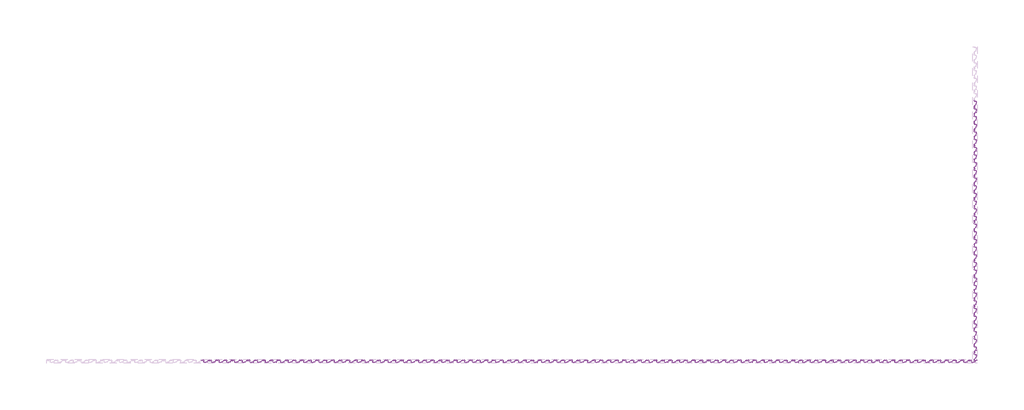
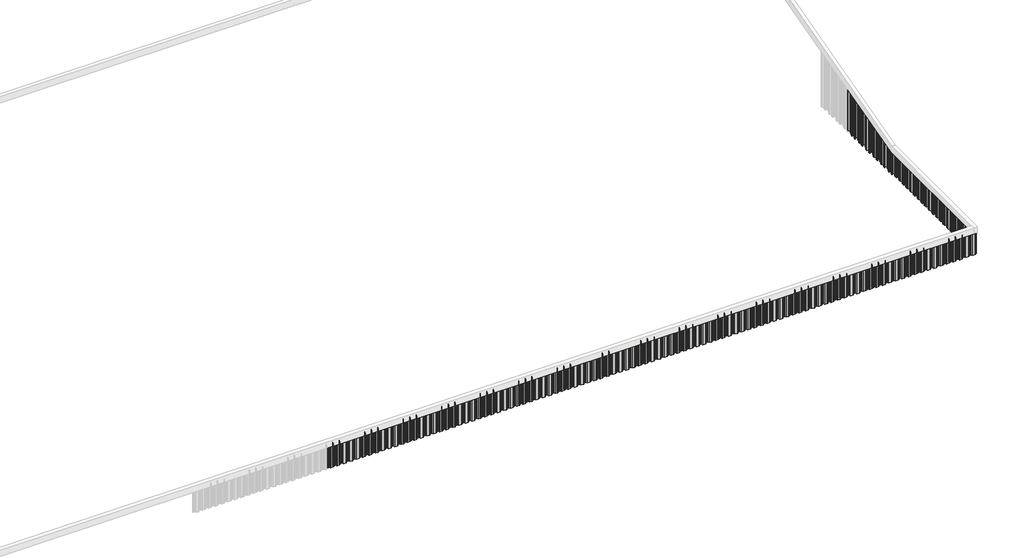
# One storey, part 3 of 6: 135 proxies.
"""IFC4 building model written with IfcOpenShell, lengths in millimetres."""

from ifc_helpers import new_model, si_unit, origin, place, context, project, spatial, transform, mapped, element, save
from components import generic_models_7553901d, generic_models_eddb28b0, generic_models_b851e550, generic_models_769bab11, generic_models_6a52f8d3, generic_models_cdec1266, generic_models_580ca2bd

model = new_model("IFC4")

# Units and contexts
model_context = context("Model", 3, world=origin())
ifc_project = project(units=[si_unit("LENGTHUNIT", "METRE", prefix="MILLI")], contexts=[model_context])

# Site, building, storey
site = spatial("IfcSite", under=ifc_project)
building = spatial("IfcBuilding", under=site)
storey = spatial("IfcBuildingStorey", under=building, Name="矢板", Elevation=0.0)

# Proxies
placement = place(None, origin())
generic_models_shape = generic_models_7553901d(model_context)
element("IfcBuildingElementProxy", 1, Name="鋼矢板10H型 : 鋼矢板10H型", ObjectType="鋼矢板10H型 : 鋼矢板10H型", at=placement, inside=storey, context=model_context, shape_type="MappedRepresentation", body=[
    mapped(generic_models_shape, transform((148500.0, -33049.0, 5850.0), x_axis=(0.0, -1.0, 0.0), y_axis=(1.0, 0.0, 0.0), z_axis=(0.0, 0.0, 1.0))),
])
element("IfcBuildingElementProxy", 2, Name="鋼矢板10H型 : 鋼矢板10H型", ObjectType="鋼矢板10H型 : 鋼矢板10H型", at=placement, inside=storey, context=model_context, shape_type="MappedRepresentation", body=[
    mapped(generic_models_shape, transform((148500.0, -33949.0, 5850.0), x_axis=(0.0, -1.0, 0.0), y_axis=(1.0, 0.0, 0.0), z_axis=(0.0, 0.0, 1.0))),
])
element("IfcBuildingElementProxy", 3, Name="鋼矢板10H型 : 鋼矢板10H型", ObjectType="鋼矢板10H型 : 鋼矢板10H型", at=placement, inside=storey, context=model_context, shape_type="MappedRepresentation", body=[
    mapped(generic_models_shape, transform((148500.0, -34849.0, 5850.0), x_axis=(0.0, -1.0, 0.0), y_axis=(1.0, 0.0, 0.0), z_axis=(0.0, 0.0, 1.0))),
])
element("IfcBuildingElementProxy", 4, Name="鋼矢板10H型 : 鋼矢板10H型", ObjectType="鋼矢板10H型 : 鋼矢板10H型", at=placement, inside=storey, context=model_context, shape_type="MappedRepresentation", body=[
    mapped(generic_models_shape, transform((148500.0, -35749.0, 5850.0), x_axis=(0.0, -1.0, 0.0), y_axis=(1.0, 0.0, 0.0), z_axis=(0.0, 0.0, 1.0))),
])
element("IfcBuildingElementProxy", 5, Name="鋼矢板10H型 : 鋼矢板10H型", ObjectType="鋼矢板10H型 : 鋼矢板10H型", at=placement, inside=storey, context=model_context, shape_type="MappedRepresentation", body=[
    mapped(generic_models_shape, transform((148500.0, -36649.0, 5850.0), x_axis=(0.0, -1.0, 0.0), y_axis=(1.0, 0.0, 0.0), z_axis=(0.0, 0.0, 1.0))),
])
element("IfcBuildingElementProxy", 6, Name="鋼矢板10H型 : 鋼矢板10H型", ObjectType="鋼矢板10H型 : 鋼矢板10H型", at=placement, inside=storey, context=model_context, shape_type="MappedRepresentation", body=[
    mapped(generic_models_shape, transform((148500.0, -37549.0, 5850.0), x_axis=(0.0, -1.0, 0.0), y_axis=(1.0, 0.0, 0.0), z_axis=(0.0, 0.0, 1.0))),
])
element("IfcBuildingElementProxy", 7, Name="鋼矢板10H型 : 鋼矢板10H型", ObjectType="鋼矢板10H型 : 鋼矢板10H型", at=placement, inside=storey, context=model_context, shape_type="MappedRepresentation", body=[
    mapped(generic_models_shape, transform((148500.0, -38449.0, 5850.0), x_axis=(0.0, -1.0, 0.0), y_axis=(1.0, 0.0, 0.0), z_axis=(0.0, 0.0, 1.0))),
])
element("IfcBuildingElementProxy", 8, Name="鋼矢板10H型 : 鋼矢板10H型", ObjectType="鋼矢板10H型 : 鋼矢板10H型", at=placement, inside=storey, context=model_context, shape_type="MappedRepresentation", body=[
    mapped(generic_models_shape, transform((148500.0, -39349.0, 5850.0), x_axis=(0.0, -1.0, 0.0), y_axis=(1.0, 0.0, 0.0), z_axis=(0.0, 0.0, 1.0))),
])
element("IfcBuildingElementProxy", 9, Name="鋼矢板10H型 : 鋼矢板10H型", ObjectType="鋼矢板10H型 : 鋼矢板10H型", at=placement, inside=storey, context=model_context, shape_type="MappedRepresentation", body=[
    mapped(generic_models_shape, transform((148500.0, -40249.0, 5850.0), x_axis=(0.0, -1.0, 0.0), y_axis=(1.0, 0.0, 0.0), z_axis=(0.0, 0.0, 1.0))),
])
element("IfcBuildingElementProxy", 10, Name="鋼矢板10H型 : 鋼矢板10H型", ObjectType="鋼矢板10H型 : 鋼矢板10H型", at=placement, inside=storey, context=model_context, shape_type="MappedRepresentation", body=[
    mapped(generic_models_shape, transform((148500.0, -41149.0, 5850.0), x_axis=(0.0, -1.0, 0.0), y_axis=(1.0, 0.0, 0.0), z_axis=(0.0, 0.0, 1.0))),
])
element("IfcBuildingElementProxy", 11, Name="鋼矢板10H型 : 鋼矢板10H型", ObjectType="鋼矢板10H型 : 鋼矢板10H型", at=placement, inside=storey, context=model_context, shape_type="MappedRepresentation", body=[
    mapped(generic_models_shape, transform((148500.0, -42049.0, 5850.0), x_axis=(0.0, -1.0, 0.0), y_axis=(1.0, 0.0, 0.0), z_axis=(0.0, 0.0, 1.0))),
])
element("IfcBuildingElementProxy", 12, Name="鋼矢板10H型 : 鋼矢板10H型", ObjectType="鋼矢板10H型 : 鋼矢板10H型", at=placement, inside=storey, context=model_context, shape_type="MappedRepresentation", body=[
    mapped(generic_models_shape, transform((148500.0, -42949.0, 5850.0), x_axis=(0.0, -1.0, 0.0), y_axis=(1.0, 0.0, 0.0), z_axis=(0.0, 0.0, 1.0))),
])
element("IfcBuildingElementProxy", 13, Name="鋼矢板10H型 : 鋼矢板10H型", ObjectType="鋼矢板10H型 : 鋼矢板10H型", at=placement, inside=storey, context=model_context, shape_type="MappedRepresentation", body=[
    mapped(generic_models_shape, transform((148500.0, -43849.0, 5850.0), x_axis=(0.0, -1.0, 0.0), y_axis=(1.0, 0.0, 0.0), z_axis=(0.0, 0.0, 1.0))),
])
element("IfcBuildingElementProxy", 14, Name="鋼矢板10H型 : 鋼矢板10H型", ObjectType="鋼矢板10H型 : 鋼矢板10H型", at=placement, inside=storey, context=model_context, shape_type="MappedRepresentation", body=[
    mapped(generic_models_shape, transform((148500.0, -44749.0, 5850.0), x_axis=(0.0, -1.0, 0.0), y_axis=(1.0, 0.0, 0.0), z_axis=(0.0, 0.0, 1.0))),
])
element("IfcBuildingElementProxy", 15, Name="鋼矢板10H型 : 鋼矢板10H型", ObjectType="鋼矢板10H型 : 鋼矢板10H型", at=placement, inside=storey, context=model_context, shape_type="MappedRepresentation", body=[
    mapped(generic_models_shape, transform((148500.0, -45649.0, 5850.0), x_axis=(0.0, -1.0, 0.0), y_axis=(1.0, 0.0, 0.0), z_axis=(0.0, 0.0, 1.0))),
])
element("IfcBuildingElementProxy", 16, Name="鋼矢板10H型 : 鋼矢板10H型", ObjectType="鋼矢板10H型 : 鋼矢板10H型", at=placement, inside=storey, context=model_context, shape_type="MappedRepresentation", body=[
    mapped(generic_models_shape, transform((148500.0, -46549.0, 5850.0), x_axis=(0.0, -1.0, 0.0), y_axis=(1.0, 0.0, 0.0), z_axis=(0.0, 0.0, 1.0))),
])
element("IfcBuildingElementProxy", 17, Name="鋼矢板10H型 : 鋼矢板10H型", ObjectType="鋼矢板10H型 : 鋼矢板10H型", at=placement, inside=storey, context=model_context, shape_type="MappedRepresentation", body=[
    mapped(generic_models_shape, transform((148500.0, -47449.0, 5850.0), x_axis=(0.0, -1.0, 0.0), y_axis=(1.0, 0.0, 0.0), z_axis=(0.0, 0.0, 1.0))),
])
element("IfcBuildingElementProxy", 18, Name="鋼矢板10H型 : 鋼矢板10H型", ObjectType="鋼矢板10H型 : 鋼矢板10H型", at=placement, inside=storey, context=model_context, shape_type="MappedRepresentation", body=[
    mapped(generic_models_shape, transform((148500.0, -48349.0, 5850.0), x_axis=(0.0, -1.0, 0.0), y_axis=(1.0, 0.0, 0.0), z_axis=(0.0, 0.0, 1.0))),
])
element("IfcBuildingElementProxy", 19, Name="鋼矢板10H型 : 鋼矢板10H型", ObjectType="鋼矢板10H型 : 鋼矢板10H型", at=placement, inside=storey, context=model_context, shape_type="MappedRepresentation", body=[
    mapped(generic_models_shape, transform((148500.0, -49249.0, 5850.0), x_axis=(0.0, -1.0, 0.0), y_axis=(1.0, 0.0, 0.0), z_axis=(0.0, 0.0, 1.0))),
])
element("IfcBuildingElementProxy", 20, Name="鋼矢板10H型 : 鋼矢板10H型", ObjectType="鋼矢板10H型 : 鋼矢板10H型", at=placement, inside=storey, context=model_context, shape_type="MappedRepresentation", body=[
    mapped(generic_models_shape, transform((148500.0, -50149.0, 5850.0), x_axis=(0.0, -1.0, 0.0), y_axis=(1.0, 0.0, 0.0), z_axis=(0.0, 0.0, 1.0))),
])
element("IfcBuildingElementProxy", 21, Name="鋼矢板10H型 : 鋼矢板10H型", ObjectType="鋼矢板10H型 : 鋼矢板10H型", at=placement, inside=storey, context=model_context, shape_type="MappedRepresentation", body=[
    mapped(generic_models_shape, transform((148500.0, -51049.0, 5850.0), x_axis=(0.0, -1.0, 0.0), y_axis=(1.0, 0.0, 0.0), z_axis=(0.0, 0.0, 1.0))),
])
element("IfcBuildingElementProxy", 22, Name="鋼矢板10H型 : 鋼矢板10H型", ObjectType="鋼矢板10H型 : 鋼矢板10H型", at=placement, inside=storey, context=model_context, shape_type="MappedRepresentation", body=[
    mapped(generic_models_shape, transform((148500.0, -51949.0, 5850.0), x_axis=(0.0, -1.0, 0.0), y_axis=(1.0, 0.0, 0.0), z_axis=(0.0, 0.0, 1.0))),
])
element("IfcBuildingElementProxy", 23, Name="鋼矢板10H型 : 鋼矢板10H型", ObjectType="鋼矢板10H型 : 鋼矢板10H型", at=placement, inside=storey, context=model_context, shape_type="MappedRepresentation", body=[
    mapped(generic_models_shape, transform((148302.5, -52500.0, 5850.0), x_axis=(-1.0, 0.0, 0.0), y_axis=(0.0, -1.0, 0.0), z_axis=(0.0, 0.0, 1.0))),
])
element("IfcBuildingElementProxy", 24, Name="鋼矢板10H型 : 鋼矢板10H型", ObjectType="鋼矢板10H型 : 鋼矢板10H型", at=placement, inside=storey, context=model_context, shape_type="MappedRepresentation", body=[
    mapped(generic_models_shape, transform((147402.5, -52500.0, 5850.0), x_axis=(-1.0, 0.0, 0.0), y_axis=(0.0, -1.0, 0.0), z_axis=(0.0, 0.0, 1.0))),
])
element("IfcBuildingElementProxy", 25, Name="鋼矢板10H型 : 鋼矢板10H型", ObjectType="鋼矢板10H型 : 鋼矢板10H型", at=placement, inside=storey, context=model_context, shape_type="MappedRepresentation", body=[
    mapped(generic_models_shape, transform((146502.5, -52500.0, 5850.0), x_axis=(-1.0, 0.0, 0.0), y_axis=(0.0, -1.0, 0.0), z_axis=(0.0, 0.0, 1.0))),
])
element("IfcBuildingElementProxy", 26, Name="鋼矢板10H型 : 鋼矢板10H型", ObjectType="鋼矢板10H型 : 鋼矢板10H型", at=placement, inside=storey, context=model_context, shape_type="MappedRepresentation", body=[
    mapped(generic_models_shape, transform((145602.5, -52500.0, 5850.0), x_axis=(-1.0, 0.0, 0.0), y_axis=(0.0, -1.0, 0.0), z_axis=(0.0, 0.0, 1.0))),
])
element("IfcBuildingElementProxy", 27, Name="鋼矢板10H型 : 鋼矢板10H型", ObjectType="鋼矢板10H型 : 鋼矢板10H型", at=placement, inside=storey, context=model_context, shape_type="MappedRepresentation", body=[
    mapped(generic_models_shape, transform((144702.5, -52500.0, 5850.0), x_axis=(-1.0, 0.0, 0.0), y_axis=(0.0, -1.0, 0.0), z_axis=(0.0, 0.0, 1.0))),
])
element("IfcBuildingElementProxy", 28, Name="鋼矢板10H型 : 鋼矢板10H型", ObjectType="鋼矢板10H型 : 鋼矢板10H型", at=placement, inside=storey, context=model_context, shape_type="MappedRepresentation", body=[
    mapped(generic_models_shape, transform((143802.5, -52500.0, 5850.0), x_axis=(-1.0, 0.0, 0.0), y_axis=(0.0, -1.0, 0.0), z_axis=(0.0, 0.0, 1.0))),
])
element("IfcBuildingElementProxy", 29, Name="鋼矢板10H型 : 鋼矢板10H型", ObjectType="鋼矢板10H型 : 鋼矢板10H型", at=placement, inside=storey, context=model_context, shape_type="MappedRepresentation", body=[
    mapped(generic_models_shape, transform((142902.5, -52500.0, 5850.0), x_axis=(-1.0, 0.0, 0.0), y_axis=(0.0, -1.0, 0.0), z_axis=(0.0, 0.0, 1.0))),
])
element("IfcBuildingElementProxy", 30, Name="鋼矢板10H型 : 鋼矢板10H型", ObjectType="鋼矢板10H型 : 鋼矢板10H型", at=placement, inside=storey, context=model_context, shape_type="MappedRepresentation", body=[
    mapped(generic_models_shape, transform((142002.5, -52500.0, 5850.0), x_axis=(-1.0, 0.0, 0.0), y_axis=(0.0, -1.0, 0.0), z_axis=(0.0, 0.0, 1.0))),
])
element("IfcBuildingElementProxy", 31, Name="鋼矢板10H型 : 鋼矢板10H型", ObjectType="鋼矢板10H型 : 鋼矢板10H型", at=placement, inside=storey, context=model_context, shape_type="MappedRepresentation", body=[
    mapped(generic_models_shape, transform((141102.5, -52500.0, 5850.0), x_axis=(-1.0, 0.0, 0.0), y_axis=(0.0, -1.0, 0.0), z_axis=(0.0, 0.0, 1.0))),
])
element("IfcBuildingElementProxy", 32, Name="鋼矢板10H型 : 鋼矢板10H型", ObjectType="鋼矢板10H型 : 鋼矢板10H型", at=placement, inside=storey, context=model_context, shape_type="MappedRepresentation", body=[
    mapped(generic_models_shape, transform((140202.5, -52500.0, 5850.0), x_axis=(-1.0, 0.0, 0.0), y_axis=(0.0, -1.0, 0.0), z_axis=(0.0, 0.0, 1.0))),
])
element("IfcBuildingElementProxy", 33, Name="鋼矢板10H型 : 鋼矢板10H型", ObjectType="鋼矢板10H型 : 鋼矢板10H型", at=placement, inside=storey, context=model_context, shape_type="MappedRepresentation", body=[
    mapped(generic_models_shape, transform((139302.5, -52500.0, 5850.0), x_axis=(-1.0, 0.0, 0.0), y_axis=(0.0, -1.0, 0.0), z_axis=(0.0, 0.0, 1.0))),
])
element("IfcBuildingElementProxy", 34, Name="鋼矢板10H型 : 鋼矢板10H型", ObjectType="鋼矢板10H型 : 鋼矢板10H型", at=placement, inside=storey, context=model_context, shape_type="MappedRepresentation", body=[
    mapped(generic_models_shape, transform((138402.5, -52500.0, 5850.0), x_axis=(-1.0, 0.0, 0.0), y_axis=(0.0, -1.0, 0.0), z_axis=(0.0, 0.0, 1.0))),
])
element("IfcBuildingElementProxy", 35, Name="鋼矢板10H型 : 鋼矢板10H型", ObjectType="鋼矢板10H型 : 鋼矢板10H型", at=placement, inside=storey, context=model_context, shape_type="MappedRepresentation", body=[
    mapped(generic_models_shape, transform((137502.5, -52500.0, 5850.0), x_axis=(-1.0, 0.0, 0.0), y_axis=(0.0, -1.0, 0.0), z_axis=(0.0, 0.0, 1.0))),
])
element("IfcBuildingElementProxy", 36, Name="鋼矢板10H型 : 鋼矢板10H型", ObjectType="鋼矢板10H型 : 鋼矢板10H型", at=placement, inside=storey, context=model_context, shape_type="MappedRepresentation", body=[
    mapped(generic_models_shape, transform((136602.5, -52500.0, 5850.0), x_axis=(-1.0, 0.0, 0.0), y_axis=(0.0, -1.0, 0.0), z_axis=(0.0, 0.0, 1.0))),
])
element("IfcBuildingElementProxy", 37, Name="鋼矢板10H型 : 鋼矢板10H型", ObjectType="鋼矢板10H型 : 鋼矢板10H型", at=placement, inside=storey, context=model_context, shape_type="MappedRepresentation", body=[
    mapped(generic_models_shape, transform((135702.5, -52500.0, 5850.0), x_axis=(-1.0, 0.0, 0.0), y_axis=(0.0, -1.0, 0.0), z_axis=(0.0, 0.0, 1.0))),
])
element("IfcBuildingElementProxy", 38, Name="鋼矢板10H型 : 鋼矢板10H型", ObjectType="鋼矢板10H型 : 鋼矢板10H型", at=placement, inside=storey, context=model_context, shape_type="MappedRepresentation", body=[
    mapped(generic_models_shape, transform((134802.5, -52500.0, 5850.0), x_axis=(-1.0, 0.0, 0.0), y_axis=(0.0, -1.0, 0.0), z_axis=(0.0, 0.0, 1.0))),
])
element("IfcBuildingElementProxy", 39, Name="鋼矢板10H型 : 鋼矢板10H型", ObjectType="鋼矢板10H型 : 鋼矢板10H型", at=placement, inside=storey, context=model_context, shape_type="MappedRepresentation", body=[
    mapped(generic_models_shape, transform((133902.5, -52500.0, 5850.0), x_axis=(-1.0, 0.0, 0.0), y_axis=(0.0, -1.0, 0.0), z_axis=(0.0, 0.0, 1.0))),
])
element("IfcBuildingElementProxy", 40, Name="鋼矢板10H型 : 鋼矢板10H型", ObjectType="鋼矢板10H型 : 鋼矢板10H型", at=placement, inside=storey, context=model_context, shape_type="MappedRepresentation", body=[
    mapped(generic_models_shape, transform((133002.5, -52500.0, 5850.0), x_axis=(-1.0, 0.0, 0.0), y_axis=(0.0, -1.0, 0.0), z_axis=(0.0, 0.0, 1.0))),
])
element("IfcBuildingElementProxy", 41, Name="鋼矢板10H型 : 鋼矢板10H型", ObjectType="鋼矢板10H型 : 鋼矢板10H型", at=placement, inside=storey, context=model_context, shape_type="MappedRepresentation", body=[
    mapped(generic_models_shape, transform((132102.5, -52500.0, 5850.0), x_axis=(-1.0, 0.0, 0.0), y_axis=(0.0, -1.0, 0.0), z_axis=(0.0, 0.0, 1.0))),
])
element("IfcBuildingElementProxy", 42, Name="鋼矢板10H型 : 鋼矢板10H型", ObjectType="鋼矢板10H型 : 鋼矢板10H型", at=placement, inside=storey, context=model_context, shape_type="MappedRepresentation", body=[
    mapped(generic_models_shape, transform((131202.5, -52500.0, 5850.0), x_axis=(-1.0, 0.0, 0.0), y_axis=(0.0, -1.0, 0.0), z_axis=(0.0, 0.0, 1.0))),
])
element("IfcBuildingElementProxy", 43, Name="鋼矢板10H型 : 鋼矢板10H型", ObjectType="鋼矢板10H型 : 鋼矢板10H型", at=placement, inside=storey, context=model_context, shape_type="MappedRepresentation", body=[
    mapped(generic_models_shape, transform((130302.5, -52500.0, 5850.0), x_axis=(-1.0, 0.0, 0.0), y_axis=(0.0, -1.0, 0.0), z_axis=(0.0, 0.0, 1.0))),
])
element("IfcBuildingElementProxy", 44, Name="鋼矢板10H型 : 鋼矢板10H型", ObjectType="鋼矢板10H型 : 鋼矢板10H型", at=placement, inside=storey, context=model_context, shape_type="MappedRepresentation", body=[
    mapped(generic_models_shape, transform((129402.5, -52500.0, 5850.0), x_axis=(-1.0, 0.0, 0.0), y_axis=(0.0, -1.0, 0.0), z_axis=(0.0, 0.0, 1.0))),
])
element("IfcBuildingElementProxy", 45, Name="鋼矢板10H型 : 鋼矢板10H型", ObjectType="鋼矢板10H型 : 鋼矢板10H型", at=placement, inside=storey, context=model_context, shape_type="MappedRepresentation", body=[
    mapped(generic_models_shape, transform((128502.5, -52500.0, 5850.0), x_axis=(-1.0, 0.0, 0.0), y_axis=(0.0, -1.0, 0.0), z_axis=(0.0, 0.0, 1.0))),
])
element("IfcBuildingElementProxy", 46, Name="鋼矢板10H型 : 鋼矢板10H型", ObjectType="鋼矢板10H型 : 鋼矢板10H型", at=placement, inside=storey, context=model_context, shape_type="MappedRepresentation", body=[
    mapped(generic_models_shape, transform((127602.5, -52500.0, 5850.0), x_axis=(-1.0, 0.0, 0.0), y_axis=(0.0, -1.0, 0.0), z_axis=(0.0, 0.0, 1.0))),
])
element("IfcBuildingElementProxy", 47, Name="鋼矢板10H型 : 鋼矢板10H型", ObjectType="鋼矢板10H型 : 鋼矢板10H型", at=placement, inside=storey, context=model_context, shape_type="MappedRepresentation", body=[
    mapped(generic_models_shape, transform((126702.5, -52500.0, 5850.0), x_axis=(-1.0, 0.0, 0.0), y_axis=(0.0, -1.0, 0.0), z_axis=(0.0, 0.0, 1.0))),
])
element("IfcBuildingElementProxy", 48, Name="鋼矢板10H型 : 鋼矢板10H型", ObjectType="鋼矢板10H型 : 鋼矢板10H型", at=placement, inside=storey, context=model_context, shape_type="MappedRepresentation", body=[
    mapped(generic_models_shape, transform((125802.5, -52500.0, 5850.0), x_axis=(-1.0, 0.0, 0.0), y_axis=(0.0, -1.0, 0.0), z_axis=(0.0, 0.0, 1.0))),
])
element("IfcBuildingElementProxy", 49, Name="鋼矢板10H型 : 鋼矢板10H型", ObjectType="鋼矢板10H型 : 鋼矢板10H型", at=placement, inside=storey, context=model_context, shape_type="MappedRepresentation", body=[
    mapped(generic_models_shape, transform((124902.5, -52500.0, 5850.0), x_axis=(-1.0, 0.0, 0.0), y_axis=(0.0, -1.0, 0.0), z_axis=(0.0, 0.0, 1.0))),
])
element("IfcBuildingElementProxy", 50, Name="鋼矢板10H型 : 鋼矢板10H型", ObjectType="鋼矢板10H型 : 鋼矢板10H型", at=placement, inside=storey, context=model_context, shape_type="MappedRepresentation", body=[
    mapped(generic_models_shape, transform((124002.5, -52500.0, 5850.0), x_axis=(-1.0, 0.0, 0.0), y_axis=(0.0, -1.0, 0.0), z_axis=(0.0, 0.0, 1.0))),
])
element("IfcBuildingElementProxy", 51, Name="鋼矢板10H型 : 鋼矢板10H型", ObjectType="鋼矢板10H型 : 鋼矢板10H型", at=placement, inside=storey, context=model_context, shape_type="MappedRepresentation", body=[
    mapped(generic_models_shape, transform((123102.5, -52500.0, 5850.0), x_axis=(-1.0, 0.0, 0.0), y_axis=(0.0, -1.0, 0.0), z_axis=(0.0, 0.0, 1.0))),
])
element("IfcBuildingElementProxy", 52, Name="鋼矢板10H型 : 鋼矢板10H型", ObjectType="鋼矢板10H型 : 鋼矢板10H型", at=placement, inside=storey, context=model_context, shape_type="MappedRepresentation", body=[
    mapped(generic_models_shape, transform((122202.5, -52500.0, 5850.0), x_axis=(-1.0, 0.0, 0.0), y_axis=(0.0, -1.0, 0.0), z_axis=(0.0, 0.0, 1.0))),
])
element("IfcBuildingElementProxy", 53, Name="鋼矢板10H型 : 鋼矢板10H型", ObjectType="鋼矢板10H型 : 鋼矢板10H型", at=placement, inside=storey, context=model_context, shape_type="MappedRepresentation", body=[
    mapped(generic_models_shape, transform((121302.5, -52500.0, 5850.0), x_axis=(-1.0, 0.0, 0.0), y_axis=(0.0, -1.0, 0.0), z_axis=(0.0, 0.0, 1.0))),
])
element("IfcBuildingElementProxy", 54, Name="鋼矢板10H型 : 鋼矢板10H型", ObjectType="鋼矢板10H型 : 鋼矢板10H型", at=placement, inside=storey, context=model_context, shape_type="MappedRepresentation", body=[
    mapped(generic_models_shape, transform((120402.5, -52500.0, 5850.0), x_axis=(-1.0, 0.0, 0.0), y_axis=(0.0, -1.0, 0.0), z_axis=(0.0, 0.0, 1.0))),
])
element("IfcBuildingElementProxy", 55, Name="鋼矢板10H型 : 鋼矢板10H型", ObjectType="鋼矢板10H型 : 鋼矢板10H型", at=placement, inside=storey, context=model_context, shape_type="MappedRepresentation", body=[
    mapped(generic_models_shape, transform((119502.5, -52500.0, 5850.0), x_axis=(-1.0, 0.0, 0.0), y_axis=(0.0, -1.0, 0.0), z_axis=(0.0, 0.0, 1.0))),
])
element("IfcBuildingElementProxy", 56, Name="鋼矢板10H型 : 鋼矢板10H型", ObjectType="鋼矢板10H型 : 鋼矢板10H型", at=placement, inside=storey, context=model_context, shape_type="MappedRepresentation", body=[
    mapped(generic_models_shape, transform((118602.5, -52500.0, 5850.0), x_axis=(-1.0, 0.0, 0.0), y_axis=(0.0, -1.0, 0.0), z_axis=(0.0, 0.0, 1.0))),
])
element("IfcBuildingElementProxy", 57, Name="鋼矢板10H型 : 鋼矢板10H型", ObjectType="鋼矢板10H型 : 鋼矢板10H型", at=placement, inside=storey, context=model_context, shape_type="MappedRepresentation", body=[
    mapped(generic_models_shape, transform((117702.5, -52500.0, 5850.0), x_axis=(-1.0, 0.0, 0.0), y_axis=(0.0, -1.0, 0.0), z_axis=(0.0, 0.0, 1.0))),
])
element("IfcBuildingElementProxy", 58, Name="鋼矢板10H型 : 鋼矢板10H型", ObjectType="鋼矢板10H型 : 鋼矢板10H型", at=placement, inside=storey, context=model_context, shape_type="MappedRepresentation", body=[
    mapped(generic_models_shape, transform((116802.5, -52500.0, 5850.0), x_axis=(-1.0, 0.0, 0.0), y_axis=(0.0, -1.0, 0.0), z_axis=(0.0, 0.0, 1.0))),
])
element("IfcBuildingElementProxy", 59, Name="鋼矢板10H型 : 鋼矢板10H型", ObjectType="鋼矢板10H型 : 鋼矢板10H型", at=placement, inside=storey, context=model_context, shape_type="MappedRepresentation", body=[
    mapped(generic_models_shape, transform((115902.5, -52500.0, 5850.0), x_axis=(-1.0, 0.0, 0.0), y_axis=(0.0, -1.0, 0.0), z_axis=(0.0, 0.0, 1.0))),
])
element("IfcBuildingElementProxy", 60, Name="鋼矢板10H型 : 鋼矢板10H型", ObjectType="鋼矢板10H型 : 鋼矢板10H型", at=placement, inside=storey, context=model_context, shape_type="MappedRepresentation", body=[
    mapped(generic_models_shape, transform((115002.5, -52500.0, 5850.0), x_axis=(-1.0, 0.0, 0.0), y_axis=(0.0, -1.0, 0.0), z_axis=(0.0, 0.0, 1.0))),
])
element("IfcBuildingElementProxy", 61, Name="鋼矢板10H型 : 鋼矢板10H型", ObjectType="鋼矢板10H型 : 鋼矢板10H型", at=placement, inside=storey, context=model_context, shape_type="MappedRepresentation", body=[
    mapped(generic_models_shape, transform((114102.5, -52500.0, 5850.0), x_axis=(-1.0, 0.0, 0.0), y_axis=(0.0, -1.0, 0.0), z_axis=(0.0, 0.0, 1.0))),
])
element("IfcBuildingElementProxy", 62, Name="鋼矢板10H型 : 鋼矢板10H型", ObjectType="鋼矢板10H型 : 鋼矢板10H型", at=placement, inside=storey, context=model_context, shape_type="MappedRepresentation", body=[
    mapped(generic_models_shape, transform((113202.5, -52500.0, 5850.0), x_axis=(-1.0, 0.0, 0.0), y_axis=(0.0, -1.0, 0.0), z_axis=(0.0, 0.0, 1.0))),
])
element("IfcBuildingElementProxy", 63, Name="鋼矢板10H型 : 鋼矢板10H型", ObjectType="鋼矢板10H型 : 鋼矢板10H型", at=placement, inside=storey, context=model_context, shape_type="MappedRepresentation", body=[
    mapped(generic_models_shape, transform((112302.5, -52500.0, 5850.0), x_axis=(-1.0, 0.0, 0.0), y_axis=(0.0, -1.0, 0.0), z_axis=(0.0, 0.0, 1.0))),
])
element("IfcBuildingElementProxy", 64, Name="鋼矢板10H型 : 鋼矢板10H型", ObjectType="鋼矢板10H型 : 鋼矢板10H型", at=placement, inside=storey, context=model_context, shape_type="MappedRepresentation", body=[
    mapped(generic_models_shape, transform((111402.5, -52500.0, 5850.0), x_axis=(-1.0, 0.0, 0.0), y_axis=(0.0, -1.0, 0.0), z_axis=(0.0, 0.0, 1.0))),
])
element("IfcBuildingElementProxy", 65, Name="鋼矢板10H型 : 鋼矢板10H型", ObjectType="鋼矢板10H型 : 鋼矢板10H型", at=placement, inside=storey, context=model_context, shape_type="MappedRepresentation", body=[
    mapped(generic_models_shape, transform((110502.5, -52500.0, 5850.0), x_axis=(-1.0, 0.0, 0.0), y_axis=(0.0, -1.0, 0.0), z_axis=(0.0, 0.0, 1.0))),
])
element("IfcBuildingElementProxy", 66, Name="鋼矢板10H型 : 鋼矢板10H型", ObjectType="鋼矢板10H型 : 鋼矢板10H型", at=placement, inside=storey, context=model_context, shape_type="MappedRepresentation", body=[
    mapped(generic_models_shape, transform((109602.5, -52500.0, 5850.0), x_axis=(-1.0, 0.0, 0.0), y_axis=(0.0, -1.0, 0.0), z_axis=(0.0, 0.0, 1.0))),
])
element("IfcBuildingElementProxy", 67, Name="鋼矢板10H型 : 鋼矢板10H型", ObjectType="鋼矢板10H型 : 鋼矢板10H型", at=placement, inside=storey, context=model_context, shape_type="MappedRepresentation", body=[
    mapped(generic_models_shape, transform((108702.5, -52500.0, 5850.0), x_axis=(-1.0, 0.0, 0.0), y_axis=(0.0, -1.0, 0.0), z_axis=(0.0, 0.0, 1.0))),
])
element("IfcBuildingElementProxy", 68, Name="鋼矢板10H型 : 鋼矢板10H型", ObjectType="鋼矢板10H型 : 鋼矢板10H型", at=placement, inside=storey, context=model_context, shape_type="MappedRepresentation", body=[
    mapped(generic_models_shape, transform((107802.5, -52500.0, 5850.0), x_axis=(-1.0, 0.0, 0.0), y_axis=(0.0, -1.0, 0.0), z_axis=(0.0, 0.0, 1.0))),
])
element("IfcBuildingElementProxy", 69, Name="鋼矢板10H型 : 鋼矢板10H型", ObjectType="鋼矢板10H型 : 鋼矢板10H型", at=placement, inside=storey, context=model_context, shape_type="MappedRepresentation", body=[
    mapped(generic_models_shape, transform((106902.5, -52500.0, 5850.0), x_axis=(-1.0, 0.0, 0.0), y_axis=(0.0, -1.0, 0.0), z_axis=(0.0, 0.0, 1.0))),
])
element("IfcBuildingElementProxy", 70, Name="鋼矢板10H型 : 鋼矢板10H型", ObjectType="鋼矢板10H型 : 鋼矢板10H型", at=placement, inside=storey, context=model_context, shape_type="MappedRepresentation", body=[
    mapped(generic_models_shape, transform((106002.5, -52500.0, 5850.0), x_axis=(-1.0, 0.0, 0.0), y_axis=(0.0, -1.0, 0.0), z_axis=(0.0, 0.0, 1.0))),
])
element("IfcBuildingElementProxy", 71, Name="鋼矢板10H型 : 鋼矢板10H型", ObjectType="鋼矢板10H型 : 鋼矢板10H型", at=placement, inside=storey, context=model_context, shape_type="MappedRepresentation", body=[
    mapped(generic_models_shape, transform((105102.5, -52500.0, 5850.0), x_axis=(-1.0, 0.0, 0.0), y_axis=(0.0, -1.0, 0.0), z_axis=(0.0, 0.0, 1.0))),
])
element("IfcBuildingElementProxy", 72, Name="鋼矢板10H型 : 鋼矢板10H型", ObjectType="鋼矢板10H型 : 鋼矢板10H型", at=placement, inside=storey, context=model_context, shape_type="MappedRepresentation", body=[
    mapped(generic_models_shape, transform((104202.5, -52500.0, 5850.0), x_axis=(-1.0, 0.0, 0.0), y_axis=(0.0, -1.0, 0.0), z_axis=(0.0, 0.0, 1.0))),
])
element("IfcBuildingElementProxy", 73, Name="鋼矢板10H型 : 鋼矢板10H型", ObjectType="鋼矢板10H型 : 鋼矢板10H型", at=placement, inside=storey, context=model_context, shape_type="MappedRepresentation", body=[
    mapped(generic_models_shape, transform((103302.5, -52500.0, 5850.0), x_axis=(-1.0, 0.0, 0.0), y_axis=(0.0, -1.0, 0.0), z_axis=(0.0, 0.0, 1.0))),
])
element("IfcBuildingElementProxy", 74, Name="鋼矢板10H型 : 鋼矢板10H型", ObjectType="鋼矢板10H型 : 鋼矢板10H型", at=placement, inside=storey, context=model_context, shape_type="MappedRepresentation", body=[
    mapped(generic_models_shape, transform((102402.5, -52500.0, 5850.0), x_axis=(-1.0, 0.0, 0.0), y_axis=(0.0, -1.0, 0.0), z_axis=(0.0, 0.0, 1.0))),
])
element("IfcBuildingElementProxy", 75, Name="鋼矢板10H型 : 鋼矢板10H型", ObjectType="鋼矢板10H型 : 鋼矢板10H型", at=placement, inside=storey, context=model_context, shape_type="MappedRepresentation", body=[
    mapped(generic_models_shape, transform((101502.5, -52500.0, 5850.0), x_axis=(-1.0, 0.0, 0.0), y_axis=(0.0, -1.0, 0.0), z_axis=(0.0, 0.0, 1.0))),
])
element("IfcBuildingElementProxy", 76, Name="鋼矢板10H型 : 鋼矢板10H型", ObjectType="鋼矢板10H型 : 鋼矢板10H型", at=placement, inside=storey, context=model_context, shape_type="MappedRepresentation", body=[
    mapped(generic_models_shape, transform((100602.5, -52500.0, 5850.0), x_axis=(-1.0, 0.0, 0.0), y_axis=(0.0, -1.0, 0.0), z_axis=(0.0, 0.0, 1.0))),
])
element("IfcBuildingElementProxy", 77, Name="鋼矢板10H型 : 鋼矢板10H型", ObjectType="鋼矢板10H型 : 鋼矢板10H型", at=placement, inside=storey, context=model_context, shape_type="MappedRepresentation", body=[
    mapped(generic_models_shape, transform((99702.5, -52500.0, 5850.0), x_axis=(-1.0, 0.0, 0.0), y_axis=(0.0, -1.0, 0.0), z_axis=(0.0, 0.0, 1.0))),
])
element("IfcBuildingElementProxy", 78, Name="鋼矢板10H型 : 鋼矢板10H型", ObjectType="鋼矢板10H型 : 鋼矢板10H型", at=placement, inside=storey, context=model_context, shape_type="MappedRepresentation", body=[
    mapped(generic_models_shape, transform((98802.5, -52500.0, 5850.0), x_axis=(-1.0, 0.0, 0.0), y_axis=(0.0, -1.0, 0.0), z_axis=(0.0, 0.0, 1.0))),
])
element("IfcBuildingElementProxy", 79, Name="鋼矢板10H型 : 鋼矢板10H型", ObjectType="鋼矢板10H型 : 鋼矢板10H型", at=placement, inside=storey, context=model_context, shape_type="MappedRepresentation", body=[
    mapped(generic_models_shape, transform((97902.5, -52500.0, 5850.0), x_axis=(-1.0, 0.0, 0.0), y_axis=(0.0, -1.0, 0.0), z_axis=(0.0, 0.0, 1.0))),
])
element("IfcBuildingElementProxy", 80, Name="鋼矢板10H型 : 鋼矢板10H型", ObjectType="鋼矢板10H型 : 鋼矢板10H型", at=placement, inside=storey, context=model_context, shape_type="MappedRepresentation", body=[
    mapped(generic_models_shape, transform((97002.5, -52500.0, 5850.0), x_axis=(-1.0, 0.0, 0.0), y_axis=(0.0, -1.0, 0.0), z_axis=(0.0, 0.0, 1.0))),
])
element("IfcBuildingElementProxy", 81, Name="鋼矢板10H型 : 鋼矢板10H型", ObjectType="鋼矢板10H型 : 鋼矢板10H型", at=placement, inside=storey, context=model_context, shape_type="MappedRepresentation", body=[
    mapped(generic_models_shape, transform((96102.5, -52500.0, 5850.0), x_axis=(-1.0, 0.0, 0.0), y_axis=(0.0, -1.0, 0.0), z_axis=(0.0, 0.0, 1.0))),
])
element("IfcBuildingElementProxy", 82, Name="鋼矢板10H型 : 鋼矢板10H型", ObjectType="鋼矢板10H型 : 鋼矢板10H型", at=placement, inside=storey, context=model_context, shape_type="MappedRepresentation", body=[
    mapped(generic_models_shape, transform((95202.5, -52500.0, 5850.0), x_axis=(-1.0, 0.0, 0.0), y_axis=(0.0, -1.0, 0.0), z_axis=(0.0, 0.0, 1.0))),
])
element("IfcBuildingElementProxy", 83, Name="鋼矢板10H型 : 鋼矢板10H型", ObjectType="鋼矢板10H型 : 鋼矢板10H型", at=placement, inside=storey, context=model_context, shape_type="MappedRepresentation", body=[
    mapped(generic_models_shape, transform((94302.5, -52500.0, 5850.0), x_axis=(-1.0, 0.0, 0.0), y_axis=(0.0, -1.0, 0.0), z_axis=(0.0, 0.0, 1.0))),
])
element("IfcBuildingElementProxy", 84, Name="鋼矢板10H型 : 鋼矢板10H型", ObjectType="鋼矢板10H型 : 鋼矢板10H型", at=placement, inside=storey, context=model_context, shape_type="MappedRepresentation", body=[
    mapped(generic_models_shape, transform((93402.5, -52500.0, 5850.0), x_axis=(-1.0, 0.0, 0.0), y_axis=(0.0, -1.0, 0.0), z_axis=(0.0, 0.0, 1.0))),
])
element("IfcBuildingElementProxy", 85, Name="鋼矢板10H型 : 鋼矢板10H型", ObjectType="鋼矢板10H型 : 鋼矢板10H型", at=placement, inside=storey, context=model_context, shape_type="MappedRepresentation", body=[
    mapped(generic_models_shape, transform((92502.5, -52500.0, 5850.0), x_axis=(-1.0, 0.0, 0.0), y_axis=(0.0, -1.0, 0.0), z_axis=(0.0, 0.0, 1.0))),
])
element("IfcBuildingElementProxy", 86, Name="鋼矢板10H型 : 鋼矢板10H型", ObjectType="鋼矢板10H型 : 鋼矢板10H型", at=placement, inside=storey, context=model_context, shape_type="MappedRepresentation", body=[
    mapped(generic_models_shape, transform((91602.5, -52500.0, 5850.0), x_axis=(-1.0, 0.0, 0.0), y_axis=(0.0, -1.0, 0.0), z_axis=(0.0, 0.0, 1.0))),
])
element("IfcBuildingElementProxy", 87, Name="鋼矢板10H型 : 鋼矢板10H型", ObjectType="鋼矢板10H型 : 鋼矢板10H型", at=placement, inside=storey, context=model_context, shape_type="MappedRepresentation", body=[
    mapped(generic_models_shape, transform((90702.5, -52500.0, 5850.0), x_axis=(-1.0, 0.0, 0.0), y_axis=(0.0, -1.0, 0.0), z_axis=(0.0, 0.0, 1.0))),
])
element("IfcBuildingElementProxy", 88, Name="鋼矢板10H型 : 鋼矢板10H型", ObjectType="鋼矢板10H型 : 鋼矢板10H型", at=placement, inside=storey, context=model_context, shape_type="MappedRepresentation", body=[
    mapped(generic_models_shape, transform((89802.5, -52500.0, 5850.0), x_axis=(-1.0, 0.0, 0.0), y_axis=(0.0, -1.0, 0.0), z_axis=(0.0, 0.0, 1.0))),
])
element("IfcBuildingElementProxy", 89, Name="鋼矢板10H型 : 鋼矢板10H型", ObjectType="鋼矢板10H型 : 鋼矢板10H型", at=placement, inside=storey, context=model_context, shape_type="MappedRepresentation", body=[
    mapped(generic_models_shape, transform((88902.5, -52500.0, 5850.0), x_axis=(-1.0, 0.0, 0.0), y_axis=(0.0, -1.0, 0.0), z_axis=(0.0, 0.0, 1.0))),
])
element("IfcBuildingElementProxy", 90, Name="鋼矢板10H型 : 鋼矢板10H型", ObjectType="鋼矢板10H型 : 鋼矢板10H型", at=placement, inside=storey, context=model_context, shape_type="MappedRepresentation", body=[
    mapped(generic_models_shape, transform((88002.5, -52500.0, 5850.0), x_axis=(-1.0, 0.0, 0.0), y_axis=(0.0, -1.0, 0.0), z_axis=(0.0, 0.0, 1.0))),
])
element("IfcBuildingElementProxy", 91, Name="鋼矢板10H型 : 鋼矢板10H型", ObjectType="鋼矢板10H型 : 鋼矢板10H型", at=placement, inside=storey, context=model_context, shape_type="MappedRepresentation", body=[
    mapped(generic_models_shape, transform((87102.5, -52500.0, 5850.0), x_axis=(-1.0, 0.0, 0.0), y_axis=(0.0, -1.0, 0.0), z_axis=(0.0, 0.0, 1.0))),
])
element("IfcBuildingElementProxy", 92, Name="鋼矢板10H型 : 鋼矢板10H型", ObjectType="鋼矢板10H型 : 鋼矢板10H型", at=placement, inside=storey, context=model_context, shape_type="MappedRepresentation", body=[
    mapped(generic_models_shape, transform((86202.5, -52500.0, 5850.0), x_axis=(-1.0, 0.0, 0.0), y_axis=(0.0, -1.0, 0.0), z_axis=(0.0, 0.0, 1.0))),
])
element("IfcBuildingElementProxy", 93, Name="鋼矢板10H型 : 鋼矢板10H型", ObjectType="鋼矢板10H型 : 鋼矢板10H型", at=placement, inside=storey, context=model_context, shape_type="MappedRepresentation", body=[
    mapped(generic_models_shape, transform((85302.5, -52500.0, 5850.0), x_axis=(-1.0, 0.0, 0.0), y_axis=(0.0, -1.0, 0.0), z_axis=(0.0, 0.0, 1.0))),
])
element("IfcBuildingElementProxy", 94, Name="鋼矢板10H型 : 鋼矢板10H型", ObjectType="鋼矢板10H型 : 鋼矢板10H型", at=placement, inside=storey, context=model_context, shape_type="MappedRepresentation", body=[
    mapped(generic_models_shape, transform((84402.5, -52500.0, 5850.0), x_axis=(-1.0, 0.0, 0.0), y_axis=(0.0, -1.0, 0.0), z_axis=(0.0, 0.0, 1.0))),
])
element("IfcBuildingElementProxy", 95, Name="鋼矢板10H型 : 鋼矢板10H型", ObjectType="鋼矢板10H型 : 鋼矢板10H型", at=placement, inside=storey, context=model_context, shape_type="MappedRepresentation", body=[
    mapped(generic_models_shape, transform((83502.5, -52500.0, 5850.0), x_axis=(-1.0, 0.0, 0.0), y_axis=(0.0, -1.0, 0.0), z_axis=(0.0, 0.0, 1.0))),
])
element("IfcBuildingElementProxy", 96, Name="鋼矢板10H型 : 鋼矢板10H型", ObjectType="鋼矢板10H型 : 鋼矢板10H型", at=placement, inside=storey, context=model_context, shape_type="MappedRepresentation", body=[
    mapped(generic_models_shape, transform((82602.5, -52500.0, 5850.0), x_axis=(-1.0, 0.0, 0.0), y_axis=(0.0, -1.0, 0.0), z_axis=(0.0, 0.0, 1.0))),
])
element("IfcBuildingElementProxy", 97, Name="鋼矢板10H型 : 鋼矢板10H型", ObjectType="鋼矢板10H型 : 鋼矢板10H型", at=placement, inside=storey, context=model_context, shape_type="MappedRepresentation", body=[
    mapped(generic_models_shape, transform((81702.5, -52500.0, 5850.0), x_axis=(-1.0, 0.0, 0.0), y_axis=(0.0, -1.0, 0.0), z_axis=(0.0, 0.0, 1.0))),
])
element("IfcBuildingElementProxy", 98, Name="鋼矢板10H型 : 鋼矢板10H型", ObjectType="鋼矢板10H型 : 鋼矢板10H型", at=placement, inside=storey, context=model_context, shape_type="MappedRepresentation", body=[
    mapped(generic_models_shape, transform((80802.5, -52500.0, 5850.0), x_axis=(-1.0, 0.0, 0.0), y_axis=(0.0, -1.0, 0.0), z_axis=(0.0, 0.0, 1.0))),
])
element("IfcBuildingElementProxy", 99, Name="鋼矢板10H型 : 鋼矢板10H型", ObjectType="鋼矢板10H型 : 鋼矢板10H型", at=placement, inside=storey, context=model_context, shape_type="MappedRepresentation", body=[
    mapped(generic_models_shape, transform((79902.5, -52500.0, 5850.0), x_axis=(-1.0, 0.0, 0.0), y_axis=(0.0, -1.0, 0.0), z_axis=(0.0, 0.0, 1.0))),
])
element("IfcBuildingElementProxy", 100, Name="鋼矢板10H型 : 鋼矢板10H型", ObjectType="鋼矢板10H型 : 鋼矢板10H型", at=placement, inside=storey, context=model_context, shape_type="MappedRepresentation", body=[
    mapped(generic_models_shape, transform((79002.5, -52500.0, 5850.0), x_axis=(-1.0, 0.0, 0.0), y_axis=(0.0, -1.0, 0.0), z_axis=(0.0, 0.0, 1.0))),
])
element("IfcBuildingElementProxy", 101, Name="鋼矢板10H型 : 鋼矢板10H型", ObjectType="鋼矢板10H型 : 鋼矢板10H型", at=placement, inside=storey, context=model_context, shape_type="MappedRepresentation", body=[
    mapped(generic_models_shape, transform((78102.5, -52500.0, 5850.0), x_axis=(-1.0, 0.0, 0.0), y_axis=(0.0, -1.0, 0.0), z_axis=(0.0, 0.0, 1.0))),
])
element("IfcBuildingElementProxy", 102, Name="鋼矢板10H型 : 鋼矢板10H型", ObjectType="鋼矢板10H型 : 鋼矢板10H型", at=placement, inside=storey, context=model_context, shape_type="MappedRepresentation", body=[
    mapped(generic_models_shape, transform((77202.5, -52500.0, 5850.0), x_axis=(-1.0, 0.0, 0.0), y_axis=(0.0, -1.0, 0.0), z_axis=(0.0, 0.0, 1.0))),
])
element("IfcBuildingElementProxy", 103, Name="鋼矢板10H型 : 鋼矢板10H型", ObjectType="鋼矢板10H型 : 鋼矢板10H型", at=placement, inside=storey, context=model_context, shape_type="MappedRepresentation", body=[
    mapped(generic_models_shape, transform((76302.5, -52500.0, 5850.0), x_axis=(-1.0, 0.0, 0.0), y_axis=(0.0, -1.0, 0.0), z_axis=(0.0, 0.0, 1.0))),
])
element("IfcBuildingElementProxy", 104, Name="鋼矢板10H型 : 鋼矢板10H型", ObjectType="鋼矢板10H型 : 鋼矢板10H型", at=placement, inside=storey, context=model_context, shape_type="MappedRepresentation", body=[
    mapped(generic_models_shape, transform((75402.5, -52500.0, 5850.0), x_axis=(-1.0, 0.0, 0.0), y_axis=(0.0, -1.0, 0.0), z_axis=(0.0, 0.0, 1.0))),
])
element("IfcBuildingElementProxy", 105, Name="鋼矢板10H型 : 鋼矢板10H型", ObjectType="鋼矢板10H型 : 鋼矢板10H型", at=placement, inside=storey, context=model_context, shape_type="MappedRepresentation", body=[
    mapped(generic_models_shape, transform((74502.5, -52500.0, 5850.0), x_axis=(-1.0, 0.0, 0.0), y_axis=(0.0, -1.0, 0.0), z_axis=(0.0, 0.0, 1.0))),
])
element("IfcBuildingElementProxy", 106, Name="鋼矢板10H型 : 鋼矢板10H型", ObjectType="鋼矢板10H型 : 鋼矢板10H型", at=placement, inside=storey, context=model_context, shape_type="MappedRepresentation", body=[
    mapped(generic_models_shape, transform((73602.5, -52500.0, 5850.0), x_axis=(-1.0, 0.0, 0.0), y_axis=(0.0, -1.0, 0.0), z_axis=(0.0, 0.0, 1.0))),
])
element("IfcBuildingElementProxy", 107, Name="鋼矢板10H型 : 鋼矢板10H型", ObjectType="鋼矢板10H型 : 鋼矢板10H型", at=placement, inside=storey, context=model_context, shape_type="MappedRepresentation", body=[
    mapped(generic_models_shape, transform((72702.5, -52500.0, 5850.0), x_axis=(-1.0, 0.0, 0.0), y_axis=(0.0, -1.0, 0.0), z_axis=(0.0, 0.0, 1.0))),
])
element("IfcBuildingElementProxy", 108, Name="鋼矢板10H型 : 鋼矢板10H型", ObjectType="鋼矢板10H型 : 鋼矢板10H型", at=placement, inside=storey, context=model_context, shape_type="MappedRepresentation", body=[
    mapped(generic_models_shape, transform((71802.5, -52500.0, 5850.0), x_axis=(-1.0, 0.0, 0.0), y_axis=(0.0, -1.0, 0.0), z_axis=(0.0, 0.0, 1.0))),
])
element("IfcBuildingElementProxy", 109, Name="鋼矢板10H型 : 鋼矢板10H型", ObjectType="鋼矢板10H型 : 鋼矢板10H型", at=placement, inside=storey, context=model_context, shape_type="MappedRepresentation", body=[
    mapped(generic_models_shape, transform((70902.5, -52500.0, 5850.0), x_axis=(-1.0, 0.0, 0.0), y_axis=(0.0, -1.0, 0.0), z_axis=(0.0, 0.0, 1.0))),
])
element("IfcBuildingElementProxy", 110, Name="鋼矢板10H型 : 鋼矢板10H型", ObjectType="鋼矢板10H型 : 鋼矢板10H型", at=placement, inside=storey, context=model_context, shape_type="MappedRepresentation", body=[
    mapped(generic_models_shape, transform((70002.5, -52500.0, 5850.0), x_axis=(-1.0, 0.0, 0.0), y_axis=(0.0, -1.0, 0.0), z_axis=(0.0, 0.0, 1.0))),
])
element("IfcBuildingElementProxy", 111, Name="鋼矢板10H型 : 鋼矢板10H型", ObjectType="鋼矢板10H型 : 鋼矢板10H型", at=placement, inside=storey, context=model_context, shape_type="MappedRepresentation", body=[
    mapped(generic_models_shape, transform((69102.5, -52500.0, 5850.0), x_axis=(-1.0, 0.0, 0.0), y_axis=(0.0, -1.0, 0.0), z_axis=(0.0, 0.0, 1.0))),
])
element("IfcBuildingElementProxy", 112, Name="鋼矢板10H型 : 鋼矢板10H型", ObjectType="鋼矢板10H型 : 鋼矢板10H型", at=placement, inside=storey, context=model_context, shape_type="MappedRepresentation", body=[
    mapped(generic_models_shape, transform((68202.5, -52500.0, 5850.0), x_axis=(-1.0, 0.0, 0.0), y_axis=(0.0, -1.0, 0.0), z_axis=(0.0, 0.0, 1.0))),
])
element("IfcBuildingElementProxy", 113, Name="鋼矢板10H型 : 鋼矢板10H型", ObjectType="鋼矢板10H型 : 鋼矢板10H型", at=placement, inside=storey, context=model_context, shape_type="MappedRepresentation", body=[
    mapped(generic_models_shape, transform((67302.5, -52500.0, 5850.0), x_axis=(-1.0, 0.0, 0.0), y_axis=(0.0, -1.0, 0.0), z_axis=(0.0, 0.0, 1.0))),
])
element("IfcBuildingElementProxy", 114, Name="鋼矢板10H型 : 鋼矢板10H型", ObjectType="鋼矢板10H型 : 鋼矢板10H型", at=placement, inside=storey, context=model_context, shape_type="MappedRepresentation", body=[
    mapped(generic_models_shape, transform((66402.5, -52500.0, 5850.0), x_axis=(-1.0, 0.0, 0.0), y_axis=(0.0, -1.0, 0.0), z_axis=(0.0, 0.0, 1.0))),
])
element("IfcBuildingElementProxy", 115, Name="鋼矢板10H型 : 鋼矢板10H型", ObjectType="鋼矢板10H型 : 鋼矢板10H型", at=placement, inside=storey, context=model_context, shape_type="MappedRepresentation", body=[
    mapped(generic_models_shape, transform((65502.5, -52500.0, 5850.0), x_axis=(-1.0, 0.0, 0.0), y_axis=(0.0, -1.0, 0.0), z_axis=(0.0, 0.0, 1.0))),
])
element("IfcBuildingElementProxy", 116, Name="鋼矢板10H型 : 鋼矢板10H型", ObjectType="鋼矢板10H型 : 鋼矢板10H型", at=placement, inside=storey, context=model_context, shape_type="MappedRepresentation", body=[
    mapped(generic_models_shape, transform((64602.5, -52500.0, 5850.0), x_axis=(-1.0, 0.0, 0.0), y_axis=(0.0, -1.0, 0.0), z_axis=(0.0, 0.0, 1.0))),
])
element("IfcBuildingElementProxy", 117, Name="鋼矢板10H型 : 鋼矢板10H型", ObjectType="鋼矢板10H型 : 鋼矢板10H型", at=placement, inside=storey, context=model_context, shape_type="MappedRepresentation", body=[
    mapped(generic_models_shape, transform((63702.5, -52500.0, 5850.0), x_axis=(-1.0, 0.0, 0.0), y_axis=(0.0, -1.0, 0.0), z_axis=(0.0, 0.0, 1.0))),
])
element("IfcBuildingElementProxy", 118, Name="鋼矢板10H型 : 鋼矢板10H型", ObjectType="鋼矢板10H型 : 鋼矢板10H型", at=placement, inside=storey, context=model_context, shape_type="MappedRepresentation", body=[
    mapped(generic_models_shape, transform((62802.5, -52500.0, 5850.0), x_axis=(-1.0, 0.0, 0.0), y_axis=(0.0, -1.0, 0.0), z_axis=(0.0, 0.0, 1.0))),
])
element("IfcBuildingElementProxy", 119, Name="鋼矢板10H型 : 鋼矢板10H型", ObjectType="鋼矢板10H型 : 鋼矢板10H型", at=placement, inside=storey, context=model_context, shape_type="MappedRepresentation", body=[
    mapped(generic_models_shape, transform((61902.5, -52500.0, 5850.0), x_axis=(-1.0, 0.0, 0.0), y_axis=(0.0, -1.0, 0.0), z_axis=(0.0, 0.0, 1.0))),
])
element("IfcBuildingElementProxy", 120, Name="鋼矢板10H型 : 鋼矢板10H型", ObjectType="鋼矢板10H型 : 鋼矢板10H型", at=placement, inside=storey, context=model_context, shape_type="MappedRepresentation", body=[
    mapped(generic_models_shape, transform((61002.5, -52500.0, 5850.0), x_axis=(-1.0, 0.0, 0.0), y_axis=(0.0, -1.0, 0.0), z_axis=(0.0, 0.0, 1.0))),
])
element("IfcBuildingElementProxy", 121, Name="鋼矢板10H型 : 鋼矢板10H型", ObjectType="鋼矢板10H型 : 鋼矢板10H型", at=placement, inside=storey, context=model_context, shape_type="MappedRepresentation", body=[
    mapped(generic_models_shape, transform((60102.5, -52500.0, 5850.0), x_axis=(-1.0, 0.0, 0.0), y_axis=(0.0, -1.0, 0.0), z_axis=(0.0, 0.0, 1.0))),
])
element("IfcBuildingElementProxy", 122, Name="鋼矢板10H型 : 鋼矢板10H型", ObjectType="鋼矢板10H型 : 鋼矢板10H型", at=placement, inside=storey, context=model_context, shape_type="MappedRepresentation", body=[
    mapped(generic_models_shape, transform((59202.5, -52500.0, 5850.0), x_axis=(-1.0, 0.0, 0.0), y_axis=(0.0, -1.0, 0.0), z_axis=(0.0, 0.0, 1.0))),
])
element("IfcBuildingElementProxy", 123, Name="鋼矢板10H型 : 鋼矢板10H型", ObjectType="鋼矢板10H型 : 鋼矢板10H型", at=placement, inside=storey, context=model_context, shape_type="MappedRepresentation", body=[
    mapped(generic_models_shape, transform((58302.5, -52500.0, 5850.0), x_axis=(-1.0, 0.0, 0.0), y_axis=(0.0, -1.0, 0.0), z_axis=(0.0, 0.0, 1.0))),
])
generic_models_2_shape = generic_models_eddb28b0(model_context)
element("IfcBuildingElementProxy", 124, Name="鋼矢板10H型 : 鋼矢板10H型", ObjectType="鋼矢板10H型 : 鋼矢板10H型", at=placement, inside=storey, context=model_context, shape_type="MappedRepresentation", body=[
    mapped(generic_models_2_shape, transform((148500.0, -24049.0, 8234.0), x_axis=(0.0, -1.0, 0.0), y_axis=(1.0, 0.0, 0.0), z_axis=(0.0, 0.0, 1.0))),
])
element("IfcBuildingElementProxy", 125, Name="鋼矢板10H型 : 鋼矢板10H型", ObjectType="鋼矢板10H型 : 鋼矢板10H型", at=placement, inside=storey, context=model_context, shape_type="MappedRepresentation", body=[
    mapped(generic_models_2_shape, transform((148500.0, -24949.0, 7997.0), x_axis=(0.0, -1.0, 0.0), y_axis=(1.0, 0.0, 0.0), z_axis=(0.0, 0.0, 1.0))),
])
generic_models_3_shape = generic_models_b851e550(model_context)
element("IfcBuildingElementProxy", 126, Name="鋼矢板10H型 : 鋼矢板10H型", ObjectType="鋼矢板10H型 : 鋼矢板10H型", at=placement, inside=storey, context=model_context, shape_type="MappedRepresentation", body=[
    mapped(generic_models_3_shape, transform((148500.0, -22249.0, 8709.0), x_axis=(0.0, -1.0, 0.0), y_axis=(1.0, 0.0, 0.0), z_axis=(0.0, 0.0, 1.0))),
])
element("IfcBuildingElementProxy", 127, Name="鋼矢板10H型 : 鋼矢板10H型", ObjectType="鋼矢板10H型 : 鋼矢板10H型", at=placement, inside=storey, context=model_context, shape_type="MappedRepresentation", body=[
    mapped(generic_models_3_shape, transform((148500.0, -23149.0, 8471.0), x_axis=(0.0, -1.0, 0.0), y_axis=(1.0, 0.0, 0.0), z_axis=(0.0, 0.0, 1.0))),
])
generic_models_4_shape = generic_models_769bab11(model_context)
element("IfcBuildingElementProxy", 128, Name="鋼矢板10H型 : 鋼矢板10H型", ObjectType="鋼矢板10H型 : 鋼矢板10H型", at=placement, inside=storey, context=model_context, shape_type="MappedRepresentation", body=[
    mapped(generic_models_4_shape, transform((148500.0, -25849.0, 7760.0), x_axis=(0.0, -1.0, 0.0), y_axis=(1.0, 0.0, 0.0), z_axis=(0.0, 0.0, 1.0))),
])
element("IfcBuildingElementProxy", 129, Name="鋼矢板10H型 : 鋼矢板10H型", ObjectType="鋼矢板10H型 : 鋼矢板10H型", at=placement, inside=storey, context=model_context, shape_type="MappedRepresentation", body=[
    mapped(generic_models_4_shape, transform((148500.0, -26749.0, 7523.0), x_axis=(0.0, -1.0, 0.0), y_axis=(1.0, 0.0, 0.0), z_axis=(0.0, 0.0, 1.0))),
])
generic_models_5_shape = generic_models_6a52f8d3(model_context)
element("IfcBuildingElementProxy", 130, Name="鋼矢板10H型 : 鋼矢板10H型", ObjectType="鋼矢板10H型 : 鋼矢板10H型", at=placement, inside=storey, context=model_context, shape_type="MappedRepresentation", body=[
    mapped(generic_models_5_shape, transform((148500.0, -27649.0, 7286.0), x_axis=(0.0, -1.0, 0.0), y_axis=(1.0, 0.0, 0.0), z_axis=(0.0, 0.0, 1.0))),
])
element("IfcBuildingElementProxy", 131, Name="鋼矢板10H型 : 鋼矢板10H型", ObjectType="鋼矢板10H型 : 鋼矢板10H型", at=placement, inside=storey, context=model_context, shape_type="MappedRepresentation", body=[
    mapped(generic_models_5_shape, transform((148500.0, -28549.0, 7049.0), x_axis=(0.0, -1.0, 0.0), y_axis=(1.0, 0.0, 0.0), z_axis=(0.0, 0.0, 1.0))),
])
generic_models_6_shape = generic_models_cdec1266(model_context)
element("IfcBuildingElementProxy", 132, Name="鋼矢板10H型 : 鋼矢板10H型", ObjectType="鋼矢板10H型 : 鋼矢板10H型", at=placement, inside=storey, context=model_context, shape_type="MappedRepresentation", body=[
    mapped(generic_models_6_shape, transform((148500.0, -29449.0, 6812.0), x_axis=(0.0, -1.0, 0.0), y_axis=(1.0, 0.0, 0.0), z_axis=(0.0, 0.0, 1.0))),
])
element("IfcBuildingElementProxy", 133, Name="鋼矢板10H型 : 鋼矢板10H型", ObjectType="鋼矢板10H型 : 鋼矢板10H型", at=placement, inside=storey, context=model_context, shape_type="MappedRepresentation", body=[
    mapped(generic_models_6_shape, transform((148500.0, -30349.0, 6575.0), x_axis=(0.0, -1.0, 0.0), y_axis=(1.0, 0.0, 0.0), z_axis=(0.0, 0.0, 1.0))),
])
generic_models_7_shape = generic_models_580ca2bd(model_context)
element("IfcBuildingElementProxy", 134, Name="鋼矢板10H型 : 鋼矢板10H型", ObjectType="鋼矢板10H型 : 鋼矢板10H型", at=placement, inside=storey, context=model_context, shape_type="MappedRepresentation", body=[
    mapped(generic_models_7_shape, transform((148500.0, -31249.0, 6337.0), x_axis=(0.0, -1.0, 0.0), y_axis=(1.0, 0.0, 0.0), z_axis=(0.0, 0.0, 1.0))),
])
element("IfcBuildingElementProxy", 135, Name="鋼矢板10H型 : 鋼矢板10H型", ObjectType="鋼矢板10H型 : 鋼矢板10H型", at=placement, inside=storey, context=model_context, shape_type="MappedRepresentation", body=[
    mapped(generic_models_7_shape, transform((148500.0, -32149.0, 6100.0), x_axis=(0.0, -1.0, 0.0), y_axis=(1.0, 0.0, 0.0), z_axis=(0.0, 0.0, 1.0))),
])

save(model, "model.ifc")
